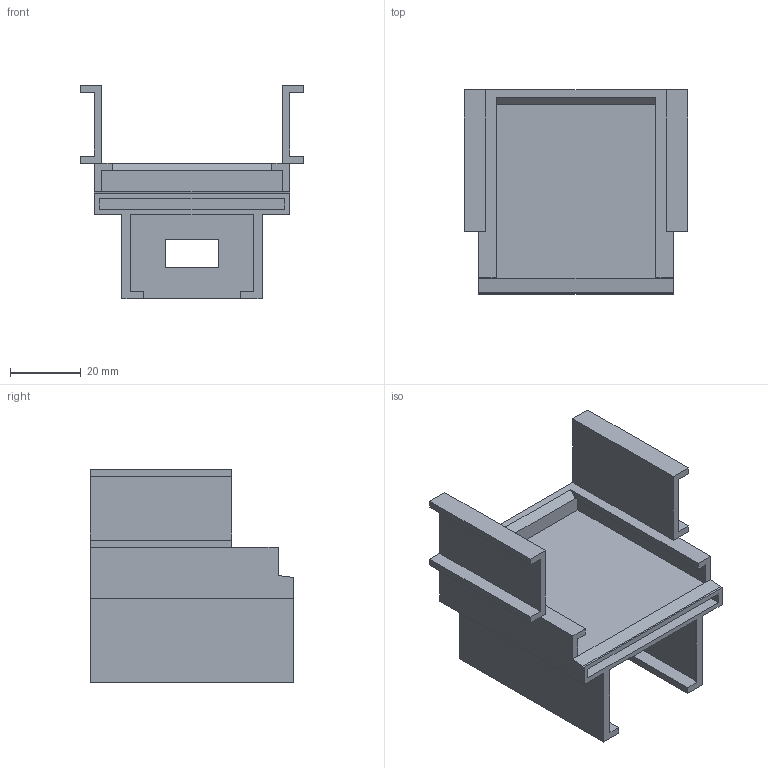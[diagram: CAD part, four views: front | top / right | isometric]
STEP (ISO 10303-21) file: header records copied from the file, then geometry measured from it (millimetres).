
FILE_DESCRIPTION(/* description */ (''),/* implementation_level */ '2;1');
FILE_NAME(/* name */ '/var/folders/wy/kd4983kd5gbgd3tx59v171sw0000gn/T/com.autodesk.mas.fusion360/Neutron/a50a46e5-574b-464f-9643-f5baabe2b694.stp',/* time_stamp */ '2019-01-12T13:43:18-05:00',/* author */ (''),/* organization */ (''),/* preprocessor_version */ 'ST-DEVELOPER v17.2',/* originating_system */ 'Autodesk Translation Framework v7.6.0.251',/* authorisation */ '');
FILE_SCHEMA (('AUTOMOTIVE_DESIGN { 1 0 10303 214 3 1 1 }'));
Length unit declared in the file: millimetre
Products named in the file (1): Holder
Bounding box: 63 x 57.5 x 60.25 mm (x, y, z)
Volume: 35543.3 mm3; surface area: 30084.2 mm2
Topology: 1 solids, 1 shells, 62 faces, 173 edges, 114 vertices
Faces by surface type: plane 62
Entity records: 1989 total; most frequent: CARTESIAN_POINT 350, ORIENTED_EDGE 346, DIRECTION 299, LINE 173, VECTOR 173, EDGE_CURVE 173, VERTEX_POINT 114, EDGE_LOOP 65
